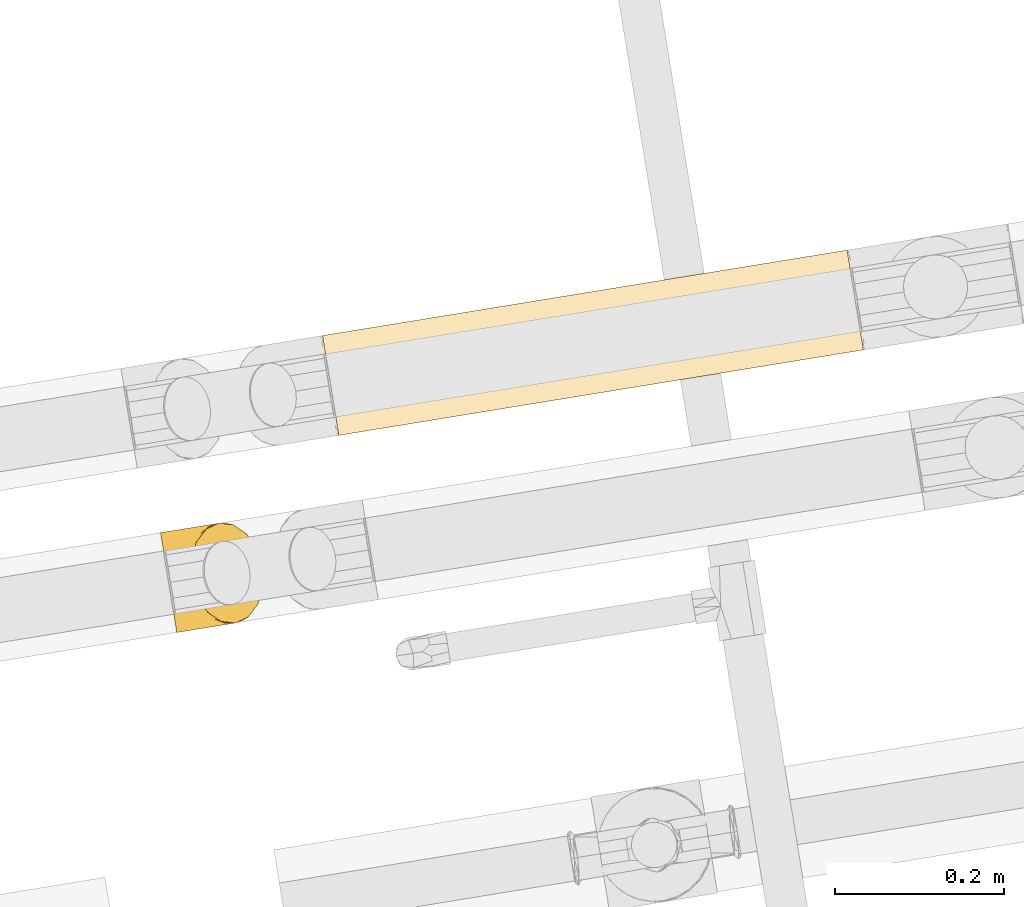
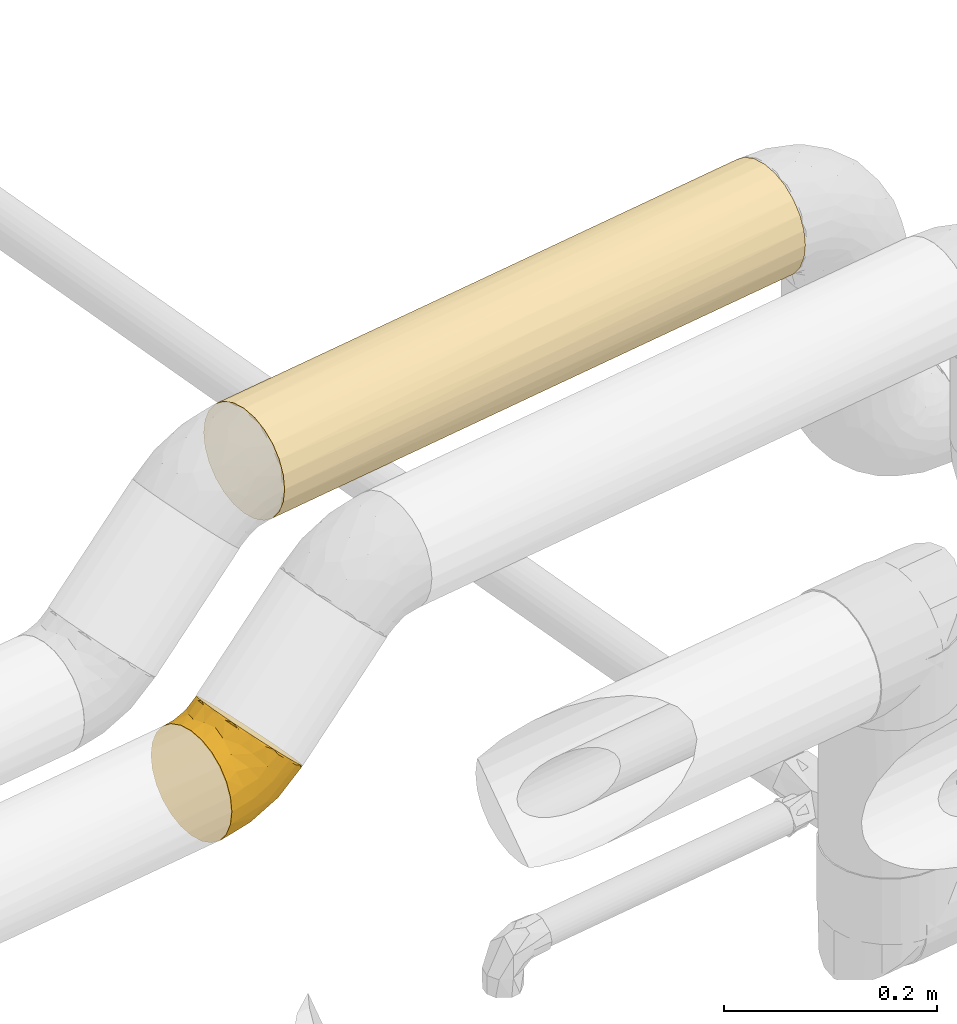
# One storey, part 10 of 56: 2 coverings.
"""IFC2X3 building model written with IfcOpenShell, lengths in millimetres."""

from ifc_helpers import new_model, entity, si_unit, converted_unit, derived_unit, direction, frame, origin, origin_with_axes, place, context, subcontext, project, spatial, faceted_brep, material, type_object, element, save


model = new_model("IFC2X3")

# Units and contexts
model_context = context("Model", 3, precision=0.01, world=origin(), true_north=direction((6.12323399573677e-17, 1.0)))
plan_context = context("Plan", 3, precision=1e-05, world=origin_with_axes())
body_context = subcontext(model_context, "Body", "Model", "MODEL_VIEW")
ifc_project = project(units=[converted_unit("PLANEANGLEUNIT", "DEGREE", entity("IfcPositiveLengthMeasure", 0.0174532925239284), si_unit("PLANEANGLEUNIT", "RADIAN"), dimensions=[0, 0, 0, 0, 0, 0, 0]), si_unit("AREAUNIT", "SQUARE_METRE"), si_unit("LENGTHUNIT", "METRE", prefix="MILLI"), si_unit("MASSUNIT", "GRAM", prefix="KILO"), si_unit("POWERUNIT", "WATT"), si_unit("PRESSUREUNIT", "PASCAL", prefix="KILO"), si_unit("FORCEUNIT", "NEWTON", prefix="KILO"), si_unit("ELECTRICVOLTAGEUNIT", "VOLT"), si_unit("ELECTRICCURRENTUNIT", "AMPERE"), si_unit("THERMODYNAMICTEMPERATUREUNIT", "DEGREE_CELSIUS"), si_unit("TIMEUNIT", "SECOND"), si_unit("VOLUMEUNIT", "CUBIC_METRE"), derived_unit("LINEARVELOCITYUNIT", [(si_unit("LENGTHUNIT", "METRE"), 1), (si_unit("TIMEUNIT", "SECOND"), -1)]), derived_unit("VOLUMETRICFLOWRATEUNIT", [(si_unit("VOLUMEUNIT", "CUBIC_METRE"), 1), (si_unit("TIMEUNIT", "SECOND"), -1)]), derived_unit("THERMALTRANSMITTANCEUNIT", [(si_unit("POWERUNIT", "WATT"), 1), (si_unit("THERMODYNAMICTEMPERATUREUNIT", "KELVIN"), -1), (si_unit("AREAUNIT", "SQUARE_METRE"), -1)]), derived_unit("SOUNDPRESSUREUNIT", [(si_unit("PRESSUREUNIT", "PASCAL"), 1)])], contexts=[model_context, plan_context])

# Site, building, storey
site_placement = place(None, frame((-3.09682673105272e-06, 1.93776733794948e-05, 0.0), z_axis=(0.0, 0.0, 1.0), x_axis=(-0.160806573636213, 0.986985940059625, 0.0)))
site = spatial("IfcSite", under=ifc_project, at=site_placement, Name="Default", CompositionType="ELEMENT")
building_placement = place(site_placement, frame((0.0, 0.0, 0.0), z_axis=(0.0, 0.0, 1.0), x_axis=(1.0, -2.77555756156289e-17, 0.0)))
building = spatial("IfcBuilding", under=site, at=building_placement, Name="Bygning (endres i Project Information)", CompositionType="ELEMENT")
storey_placement = place(building_placement, frame((0.0, 0.0, 51360.0000000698), z_axis=(0.0, 0.0, 1.0), x_axis=(1.0, -2.77555756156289e-17, 0.0)))
storey = spatial("IfcBuildingStorey", under=building, at=storey_placement, Name="H01-Nivå D+0,36", CompositionType="ELEMENT", Elevation=51360.0000000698)

# Coverings
ifc_material_1 = material(Name="3700.001 Retur")
covering_type = type_object("IfcCoveringType", Name="Pipe Insulation:GLAVA avløpsisol. slange økende 19mm (15,5-25,0)", PredefinedType="INSULATION")
covering_1_placement = place(storey_placement, frame((1011626.7223707, -394788.965391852, 3513.15039411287), z_axis=(0.0, 0.0, 1.0), x_axis=(1.0, -2.77555756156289e-17, 0.0)))
element("IfcCovering", 1, at=covering_1_placement, inside=storey, type_object=covering_type, material=ifc_material_1, Name="Pipe Insulation:GLAVA avløpsisol. slange økende 19mm (15,5-25,0)", ObjectType="Pipe Insulation:GLAVA avløpsisol. slange økende 19mm (15,5-25,0)", PredefinedType="INSULATION", context=body_context, shape_type="Brep", body=[
    faceted_brep([(38.6651321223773, 83.2865874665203, -4.82748142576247), (28.9243210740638, 78.6843109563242, -9.42975793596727), (19.1835100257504, 74.0820344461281, -14.0320344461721), (12.6749081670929, 67.1942408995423, -20.9198279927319), (6.16630630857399, 60.3064473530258, -27.8076215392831), (3.88078927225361, 52.1817408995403, -35.9323279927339), (1.59527223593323, 44.0570344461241, -44.0570344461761), (3.88078927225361, 35.9323279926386, -52.1817408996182), (6.16630630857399, 27.8076215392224, -60.3064473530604), (12.6749081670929, 20.9198279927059, -67.1942408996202), (19.1835100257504, 14.0320344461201, -74.0820344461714), (28.9243210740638, 9.42975793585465, -78.6843109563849), (38.6651321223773, 4.82748142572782, -83.2865874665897), (50.1552021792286, 3.21137683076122, -84.9026920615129), (61.6452722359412, 1.59527223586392, -86.5187966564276), (73.1353422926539, 3.21137683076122, -84.9026920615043), (84.6254123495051, 4.82748142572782, -83.2865874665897), (94.3662233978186, 9.42975793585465, -78.6843109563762), (104.107034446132, 14.0320344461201, -74.0820344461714), (110.61563630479, 20.9198279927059, -67.1942408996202), (117.124238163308, 27.8076215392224, -60.3064473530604), (119.409755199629, 35.9323279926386, -52.1817408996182), (121.695272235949, 44.0570344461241, -44.0570344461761), (119.409755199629, 52.1817408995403, -35.9323279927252), (117.124238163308, 60.3064473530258, -27.8076215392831), (110.61563630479, 67.1942408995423, -20.9198279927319), (104.107034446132, 74.0820344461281, -14.0320344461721), (94.3662233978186, 78.6843109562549, -9.42975793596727), (84.6254123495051, 83.2865874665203, -4.82748142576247), (73.1353422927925, 84.9026920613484, -3.21137683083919), (61.6452722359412, 86.5187966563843, -1.5952722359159), (50.1552021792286, 84.9026920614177, -3.21137683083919), (84.4288140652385, 114.292838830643, -128.153992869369), (77.1873558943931, 114.292838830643, -131.153503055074), (70.0046048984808, 114.292838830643, -132.099130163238), (61.6452722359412, 114.292838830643, -133.199657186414), (53.8742304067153, 114.292838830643, -132.17658012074), (46.1031885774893, 114.292838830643, -131.153503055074), (38.861730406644, 114.292838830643, -128.153992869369), (31.6202722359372, 114.292838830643, -125.154482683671), (25.4018911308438, 114.292838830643, -120.382951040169), (19.1835100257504, 114.292838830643, -115.611419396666), (14.4119783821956, 114.292838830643, -109.393038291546), (9.64044673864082, 114.292838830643, -103.174657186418), (6.64093655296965, 114.292838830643, -95.933199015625), (3.64142636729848, 114.292838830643, -88.6917408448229), (2.69579925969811, 114.292838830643, -81.5089898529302), (1.59527223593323, 114.292838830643, -73.1496571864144), (2.61834930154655, 114.292838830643, -65.3786153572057), (3.64142636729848, 114.292838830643, -57.6075735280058), (6.64093655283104, 114.292838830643, -50.3661153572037), (9.64044673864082, 114.292838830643, -43.124657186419), (14.4119783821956, 114.292838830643, -36.9062760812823), (19.1835100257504, 114.292838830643, -30.6878949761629), (25.4018911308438, 114.292838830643, -25.9163633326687), (31.6202722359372, 114.292838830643, -21.1448316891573), (38.861730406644, 114.292838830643, -18.1453215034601), (46.1031885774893, 114.292838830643, -15.1458113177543), (53.2859395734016, 114.292838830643, -14.2001842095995), (61.6452722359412, 114.292838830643, -13.099657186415), (69.4163140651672, 114.292838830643, -14.122734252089), (77.1873558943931, 114.292838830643, -15.1458113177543), (84.4288140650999, 114.292838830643, -18.1453215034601), (91.6702722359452, 114.292838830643, -21.1448316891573), (97.8886533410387, 114.292838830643, -25.9163633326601), (104.107034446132, 114.292838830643, -30.6878949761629), (108.878566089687, 114.292838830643, -36.9062760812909), (113.650097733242, 114.292838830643, -43.1246571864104), (116.649607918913, 114.292838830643, -50.3661153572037), (119.649118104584, 114.292838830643, -57.6075735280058), (120.594745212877, 114.292838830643, -64.7903245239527), (121.695272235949, 114.292838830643, -73.1496571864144), (120.672195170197, 114.292838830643, -80.920699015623), (119.649118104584, 114.292838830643, -88.6917408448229), (116.649607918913, 114.292838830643, -95.933199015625), (113.650097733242, 114.292838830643, -103.174657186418), (108.878566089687, 114.292838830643, -109.393038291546), (104.107034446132, 114.292838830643, -115.611419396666), (97.8886533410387, 114.292838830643, -120.382951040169), (91.6702722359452, 114.292838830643, -125.154482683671), (46.1031885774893, 112.292838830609, -131.153503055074), (61.6452722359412, 112.292838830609, -133.199657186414), (53.2859395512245, 112.292838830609, -132.099130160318), (31.6202722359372, 112.292838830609, -125.154482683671), (38.861730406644, 112.292838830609, -128.153992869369), (25.4018911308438, 112.292838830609, -120.382951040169), (19.1835100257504, 112.292838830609, -115.611419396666), (9.64044673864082, 112.292838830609, -103.174657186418), (14.4119783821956, 112.292838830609, -109.393038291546), (3.64142636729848, 112.292838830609, -88.6917408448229), (6.64093655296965, 112.292838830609, -95.933199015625), (2.61834930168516, 112.292838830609, -80.920699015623), (1.59527223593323, 112.292838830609, -73.1496571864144), (3.64142636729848, 112.292838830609, -57.6075735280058), (2.69579925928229, 112.292838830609, -64.7903245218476), (9.64044673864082, 112.292838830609, -43.1246571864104), (6.64093655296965, 112.292838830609, -50.3661153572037), (14.4119783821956, 112.292838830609, -36.9062760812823), (19.1835100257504, 112.292838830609, -30.6878949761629), (31.6202722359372, 112.292838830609, -21.1448316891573), (25.4018911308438, 112.292838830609, -25.9163633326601), (46.1031885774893, 112.292838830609, -15.1458113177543), (38.861730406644, 112.292838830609, -18.1453215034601), (53.8742304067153, 112.292838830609, -14.122734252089), (61.6452722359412, 112.292838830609, -13.099657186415), (77.1873558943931, 112.292838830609, -15.1458113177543), (70.0046048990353, 112.292838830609, -14.2001842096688), (91.6702722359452, 112.292838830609, -21.1448316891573), (84.4288140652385, 112.292838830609, -18.1453215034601), (97.8886533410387, 112.292838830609, -25.9163633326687), (104.107034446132, 112.292838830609, -30.6878949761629), (113.650097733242, 112.292838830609, -43.1246571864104), (108.878566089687, 112.292838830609, -36.9062760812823), (119.649118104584, 112.292838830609, -57.6075735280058), (116.649607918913, 112.292838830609, -50.3661153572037), (120.672195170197, 112.292838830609, -65.3786153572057), (121.695272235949, 112.292838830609, -73.1496571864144), (119.649118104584, 112.292838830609, -88.6917408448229), (120.594745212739, 112.292838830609, -81.5089898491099), (113.650097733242, 112.292838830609, -103.174657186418), (116.649607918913, 112.292838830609, -95.933199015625), (108.878566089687, 112.292838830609, -109.393038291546), (104.107034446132, 112.292838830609, -115.611419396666), (91.6702722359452, 112.292838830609, -125.154482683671), (97.8886533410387, 112.292838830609, -120.382951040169), (77.1873558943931, 112.292838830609, -131.153503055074), (84.4288140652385, 112.292838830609, -128.153992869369), (69.4163140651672, 112.292838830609, -132.17658012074), (50.664647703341, 85.5475609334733, -129.839799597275), (39.5950181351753, 76.4597781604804, -124.672390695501), (61.6452722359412, 72.2923554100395, -127.933493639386), (25.9108698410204, 87.1245465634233, -119.173874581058), (26.9386521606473, 57.3759997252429, -111.230641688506), (25.9108693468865, 30.7238840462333, -95.8119553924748), (31.6202722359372, 8.69828324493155, -82.2442127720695), (25.4018911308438, 12.0722656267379, -78.8702303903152), (19.1835100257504, 15.4462480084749, -75.4962480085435), (61.6452722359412, 35.0178388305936, -112.493883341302), (50.6646483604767, 24.2970327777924, -104.469000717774), (49.9807930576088, 53.5868241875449, -120.37852270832), (1.59527223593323, 65.0428388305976, -60.4890578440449), (4.46183562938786, 69.1139559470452, -82.8927031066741), (3.64142636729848, 34.4813352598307, -56.4611607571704), (1.59527223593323, 87.834439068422, -69.9296477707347), (1.59527223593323, 99.4313806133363, -71.4564140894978), (15.0655051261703, 80.7941069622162, -107.247101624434), (8.00076731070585, 85.2729382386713, -97.0932618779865), (9.04079400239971, 59.6499882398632, -90.3254583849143), (9.64044673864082, 24.2403669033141, -66.7021291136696), (6.64093655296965, 29.3608510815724, -61.58164493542), (46.1031885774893, 4.45633525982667, -86.4861607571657), (39.5950159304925, 34.3769800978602, -107.241125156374), (15.2098345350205, 47.1520218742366, -94.1181301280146), (14.4119783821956, 19.8433074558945, -71.0991885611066), (61.6452722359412, 3.0094857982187, -87.933010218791), (53.8742304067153, 3.73291052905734, -87.2095854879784), (1.59527223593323, 55.762976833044, -53.3683692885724), (2.61834930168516, 39.9762916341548, -50.9662043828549), (1.59527223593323, 45.4712480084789, -45.4712480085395), (1.59527223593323, 76.4386389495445, -65.2093528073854), (38.861730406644, 6.57730925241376, -84.365186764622), (3.54813655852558, 80.2897842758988, -51.2164323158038), (4.16459638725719, 97.4249525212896, -54.3255432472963), (11.7283730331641, 100.885054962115, -38.6943743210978), (13.156433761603, 79.9940329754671, -28.1148182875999), (22.1682347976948, 98.6848226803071, -25.9823157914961), (9.27971318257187, 87.3768363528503, -38.8022194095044), (4.16459674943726, 69.295093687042, -42.6737737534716), (35.8329738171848, 96.8780673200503, -15.8642126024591), (61.6452722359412, 99.1093945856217, -10.4773070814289), (22.6361433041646, 86.7574756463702, -20.2894712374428), (3.64142636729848, 56.4611607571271, -34.4813352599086), (6.64093655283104, 61.5816449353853, -29.3608510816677), (9.64044673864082, 66.7021291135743, -24.2403669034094), (31.6202722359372, 82.2442127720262, -8.69828324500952), (48.4139431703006, 95.9077321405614, -10.6214088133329), (61.6452722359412, 87.933010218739, -3.00948579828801), (38.861730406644, 84.365186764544, -6.57730925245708), (46.1031885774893, 86.4861607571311, -4.45633525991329), (53.8742304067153, 87.2095854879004, -3.73291052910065), (19.1835100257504, 75.4962480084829, -15.4462480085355), (25.4018911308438, 78.8702303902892, -12.0722656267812), (14.4119783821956, 71.0991885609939, -19.8433074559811), (2.61834930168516, 50.966204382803, -39.9762916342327), (100.654400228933, 100.905278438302, -26.1496811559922), (87.4575706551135, 96.878067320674, -15.8642126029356), (101.122308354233, 88.4459215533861, -21.7412236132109), (91.6702722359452, 82.2442127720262, -8.69828324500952), (97.8886533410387, 78.8702303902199, -12.0722656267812), (104.107034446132, 75.4962480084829, -15.4462480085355), (74.8766016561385, 101.27141707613, -12.8431198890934), (119.74240796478, 83.6099611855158, -52.59169472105), (121.695272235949, 87.834439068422, -69.9296477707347), (119.125948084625, 97.4249525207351, -54.3255432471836), (110.134108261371, 100.154400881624, -36.4655109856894), (121.695272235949, 99.431380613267, -71.4564140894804), (114.01083159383, 87.3768346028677, -38.8022192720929), (121.695272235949, 55.7629768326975, -53.3683692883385), (119.649118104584, 56.4611607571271, -34.4813352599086), (120.672195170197, 50.966204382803, -39.9762916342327), (121.695272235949, 45.4712480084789, -45.4712480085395), (111.562170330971, 77.9013394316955, -29.1742072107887), (119.125947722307, 69.2950936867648, -42.6737737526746), (69.4163140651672, 87.2095854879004, -3.73291052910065), (77.1873558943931, 86.4861607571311, -4.45633525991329), (113.650097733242, 66.7021291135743, -24.2403669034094), (116.649607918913, 61.581644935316, -29.3608510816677), (84.4288140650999, 84.365186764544, -6.57730925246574), (108.878566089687, 71.0991885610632, -19.8433074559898), (121.695272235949, 65.0428388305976, -60.4890578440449), (121.695272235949, 76.4386389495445, -65.2093528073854), (118.828708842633, 69.1139559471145, -82.8927031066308), (83.6955263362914, 76.4597781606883, -124.672390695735), (97.3796746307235, 87.1245465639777, -119.173874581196), (96.3518923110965, 57.3759997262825, -111.230641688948), (83.6955285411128, 34.3769801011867, -107.241125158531), (91.6702722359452, 8.69828324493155, -82.2442127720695), (84.4288140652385, 6.57730925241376, -84.365186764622), (77.1873558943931, 4.45633525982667, -86.4861607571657), (108.080710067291, 76.7058127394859, -106.35971085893), (72.6258967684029, 85.5475609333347, -129.839799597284), (73.3097514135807, 53.5868241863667, -120.378522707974), (108.225039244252, 43.6336813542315, -91.8547496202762), (97.3796751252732, 30.7238840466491, -95.8119553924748), (119.649118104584, 34.4813352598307, -56.4611607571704), (120.672195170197, 39.9762916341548, -50.9662043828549), (114.249750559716, 70.5502398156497, -94.8404902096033), (72.6258961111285, 24.2970327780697, -104.469000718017), (104.107034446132, 15.4462480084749, -75.4962480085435), (113.650097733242, 24.2403669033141, -66.7021291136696), (108.878566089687, 19.8433074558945, -71.0991885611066), (97.8886533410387, 12.0722656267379, -78.8702303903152), (115.289777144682, 47.6465184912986, -81.5078887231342), (116.649607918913, 29.3608510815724, -61.58164493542), (69.4163140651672, 3.73291052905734, -87.2095854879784)], [[[0, 1, 2, 3, 4, 5, 6, 7, 8, 9, 10, 11, 12, 13, 14, 15, 16, 17, 18, 19, 20, 21, 22, 23, 24, 25, 26, 27, 28, 29, 30, 31]], [[32, 33, 34, 35, 36, 37, 38, 39, 40, 41, 42, 43, 44, 45, 46, 47, 48, 49, 50, 51, 52, 53, 54, 55, 56, 57, 58, 59, 60, 61, 62, 63, 64, 65, 66, 67, 68, 69, 70, 71, 72, 73, 74, 75, 76, 77, 78, 79]], [[80, 37, 36, 35, 81, 82]], [[83, 39, 38, 37, 80, 84]], [[40, 39, 83, 85, 86, 41]], [[87, 43, 42, 41, 86, 88]], [[89, 45, 44, 43, 87, 90]], [[46, 45, 89, 91, 92, 47]], [[93, 49, 48, 47, 92, 94]], [[95, 51, 50, 49, 93, 96]], [[52, 51, 95, 97, 98, 53]], [[99, 55, 54, 53, 98, 100]], [[101, 57, 56, 55, 99, 102]], [[58, 57, 101, 103, 104, 59]], [[105, 61, 60, 59, 104, 106]], [[107, 63, 62, 61, 105, 108]], [[64, 63, 107, 109, 110, 65]], [[111, 67, 66, 65, 110, 112]], [[113, 69, 68, 67, 111, 114]], [[70, 69, 113, 115, 116, 71]], [[117, 73, 72, 71, 116, 118]], [[119, 75, 74, 73, 117, 120]], [[76, 75, 119, 121, 122, 77]], [[123, 79, 78, 77, 122, 124]], [[125, 33, 32, 79, 123, 126]], [[34, 33, 125, 127, 81, 35]], [[80, 128, 129]], [[81, 130, 128]], [[131, 86, 85, 83]], [[129, 132, 131]], [[133, 134, 135, 136]], [[137, 138, 139]], [[139, 130, 137]], [[140, 141, 142]], [[89, 143, 144, 92, 91]], [[143, 89, 141]], [[129, 83, 84, 80]], [[145, 146, 87]], [[145, 87, 88, 86]], [[147, 148, 149, 142]], [[150, 151, 138]], [[132, 129, 151]], [[152, 136, 153, 148]], [[134, 133, 151]], [[151, 129, 139]], [[138, 154, 155, 150]], [[132, 152, 145]], [[151, 133, 132]], [[146, 89, 90, 87]], [[156, 140, 142, 157, 158]], [[141, 140, 159, 143]], [[142, 141, 147]], [[145, 131, 132]], [[129, 131, 83]], [[133, 152, 132]], [[146, 147, 141]], [[152, 133, 136]], [[151, 150, 160, 134]], [[128, 139, 129]], [[145, 86, 131]], [[147, 145, 152]], [[89, 146, 141]], [[145, 147, 146]], [[148, 147, 152]], [[128, 80, 82, 81]], [[139, 128, 130]], [[139, 138, 151]], [[154, 138, 137]], [[143, 161, 162]], [[143, 162, 144]], [[163, 98, 97, 95]], [[144, 162, 93]], [[164, 165, 166]], [[161, 167, 166]], [[165, 99, 100, 98]], [[165, 168, 99]], [[162, 95, 96, 93]], [[169, 104, 103, 101]], [[168, 101, 102, 99]], [[163, 165, 98]], [[161, 143, 159, 140]], [[167, 164, 166]], [[168, 165, 170]], [[167, 171, 172, 173]], [[163, 162, 166]], [[167, 156, 171]], [[164, 167, 173]], [[168, 170, 174]], [[161, 140, 167]], [[169, 175, 176]], [[168, 174, 177, 178]], [[101, 168, 175]], [[178, 175, 168]], [[175, 178, 179, 176]], [[170, 180, 181, 174]], [[164, 170, 165]], [[162, 163, 95]], [[180, 170, 164]], [[165, 163, 166]], [[164, 173, 182, 180]], [[144, 93, 94, 92]], [[156, 167, 140]], [[156, 158, 183, 171]], [[101, 175, 169]], [[162, 161, 166]], [[184, 185, 186]], [[186, 187, 188, 189]], [[105, 190, 185]], [[191, 192, 193]], [[194, 184, 186]], [[184, 110, 109, 107]], [[193, 195, 113]], [[194, 186, 196]], [[193, 113, 114, 111]], [[197, 198, 199, 200]], [[191, 193, 196]], [[201, 202, 196]], [[104, 169, 190]], [[186, 201, 196]], [[169, 176, 203, 204]], [[185, 184, 107]], [[185, 107, 108, 105]], [[202, 205, 206, 198]], [[185, 204, 207, 187]], [[187, 186, 185]], [[184, 194, 110]], [[201, 189, 208, 205]], [[201, 186, 189]], [[191, 202, 209]], [[209, 202, 197]], [[202, 198, 197]], [[209, 210, 192, 191]], [[194, 193, 111]], [[194, 111, 112, 110]], [[204, 185, 190]], [[202, 201, 205]], [[193, 194, 196]], [[195, 193, 192]], [[195, 116, 115, 113]], [[190, 105, 106, 104]], [[204, 190, 169]], [[202, 191, 196]], [[117, 192, 211]], [[212, 213, 214]], [[195, 192, 117, 118, 116]], [[215, 216, 217, 218]], [[219, 213, 122]], [[213, 219, 214]], [[220, 81, 127, 125]], [[212, 215, 221]], [[212, 125, 126, 123]], [[222, 223, 214]], [[213, 123, 124, 122]], [[123, 213, 212]], [[220, 221, 130]], [[219, 122, 121, 119]], [[211, 192, 210, 209]], [[215, 223, 216]], [[224, 209, 197, 200, 225]], [[117, 211, 226]], [[219, 222, 214]], [[215, 227, 221]], [[222, 228, 223]], [[222, 229, 230, 228]], [[212, 220, 125]], [[223, 228, 231, 216]], [[154, 137, 227]], [[218, 227, 215]], [[222, 232, 229]], [[223, 215, 214]], [[221, 137, 130]], [[232, 224, 233, 229]], [[214, 215, 212]], [[224, 211, 209]], [[232, 226, 211]], [[226, 119, 120, 117]], [[226, 222, 219]], [[224, 232, 211]], [[222, 226, 232]], [[119, 226, 219]], [[227, 218, 234, 154]], [[221, 227, 137]], [[221, 220, 212]], [[81, 220, 130]], [[155, 154, 14]], [[157, 142, 7]], [[157, 6, 158]], [[12, 11, 134]], [[12, 134, 160, 150]], [[12, 150, 13]], [[10, 135, 11]], [[14, 13, 155]], [[135, 10, 136]], [[13, 150, 155]], [[6, 157, 7]], [[8, 142, 149, 148]], [[153, 9, 148]], [[153, 10, 9]], [[8, 148, 9]], [[10, 153, 136]], [[135, 134, 11]], [[8, 7, 142]], [[183, 158, 6]], [[179, 178, 31]], [[179, 30, 176]], [[4, 3, 173]], [[4, 173, 172, 171]], [[4, 171, 5]], [[2, 182, 3]], [[6, 5, 183]], [[182, 2, 180]], [[5, 171, 183]], [[30, 179, 31]], [[0, 178, 177, 174]], [[181, 1, 174]], [[181, 2, 1]], [[0, 174, 1]], [[2, 181, 180]], [[182, 173, 3]], [[0, 31, 178]], [[203, 176, 30]], [[199, 198, 23]], [[199, 22, 200]], [[28, 27, 187]], [[28, 187, 207, 204]], [[28, 204, 29]], [[26, 188, 27]], [[30, 29, 203]], [[188, 26, 189]], [[29, 204, 203]], [[22, 199, 23]], [[24, 198, 206, 205]], [[208, 25, 205]], [[208, 26, 25]], [[24, 205, 25]], [[26, 208, 189]], [[188, 187, 27]], [[24, 23, 198]], [[225, 200, 22]], [[234, 218, 15]], [[234, 14, 154]], [[20, 19, 229]], [[20, 229, 233, 224]], [[20, 224, 21]], [[18, 230, 19]], [[22, 21, 225]], [[230, 18, 228]], [[21, 224, 225]], [[14, 234, 15]], [[16, 218, 217, 216]], [[231, 17, 216]], [[231, 18, 17]], [[16, 216, 17]], [[18, 231, 228]], [[230, 229, 19]], [[16, 15, 218]]]),
])
ifc_material_2 = material(Name="3700.001 Tur")
covering_2_placement = place(storey_placement, frame((1011826.7223714, -395532.815734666, 3538.3547284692), z_axis=(0.0, 0.0, 1.0), x_axis=(1.0, -2.77555756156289e-17, 0.0)))
element("IfcCovering", 2, at=covering_2_placement, inside=storey, type_object=covering_type, material=ifc_material_2, Name="Pipe Insulation:GLAVA avløpsisol. slange økende 19mm (15,5-25,0)", ObjectType="Pipe Insulation:GLAVA avløpsisol. slange økende 19mm (15,5-25,0)", PredefinedType="INSULATION", context=body_context, shape_type="Brep", body=[
    faceted_brep([(46.103188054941, 630.857555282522, 119.649116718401), (61.6452715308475, 630.857555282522, 121.695270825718), (77.1873550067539, 630.857555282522, 119.649116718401), (91.6702711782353, 630.857555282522, 113.650096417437), (104.107033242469, 630.857555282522, 104.107033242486), (113.650096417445, 630.857555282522, 91.6702711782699), (119.649116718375, 630.857555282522, 77.1873550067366), (121.695270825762, 630.857555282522, 61.6452715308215), (119.649116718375, 630.857555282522, 46.1031880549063), (113.650096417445, 630.857555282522, 31.620271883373), (104.107033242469, 630.857555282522, 19.1835098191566), (91.6702711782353, 630.857555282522, 9.64044664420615), (77.1873550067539, 630.857555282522, 3.64142634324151), (61.6452715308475, 630.857555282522, 1.59527223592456), (46.103188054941, 630.857555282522, 3.64142634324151), (31.6202718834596, 630.857555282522, 9.64044664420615), (19.1835098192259, 630.857555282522, 19.1835098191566), (9.64044664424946, 630.857555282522, 31.620271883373), (3.64142634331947, 630.857555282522, 46.1031880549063), (1.59527223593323, 630.857555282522, 61.6452715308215), (3.64142634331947, 630.857555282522, 77.1873550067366), (9.64044664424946, 630.857555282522, 91.6702711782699), (19.1835098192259, 630.857555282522, 104.107033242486), (31.6202718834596, 630.857555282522, 113.650096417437), (31.6202718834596, 0.0, 113.650096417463), (19.1835098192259, 0.0, 104.107033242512), (9.64044664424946, 0.0, 91.6702711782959), (3.64142634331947, 0.0, 77.1873550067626), (1.59527223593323, 0.0, 61.6452715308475), (3.64142634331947, 0.0, 46.1031880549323), (9.64044664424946, 0.0, 31.620271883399), (19.1835098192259, 0.0, 19.1835098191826), (31.6202718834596, 0.0, 9.64044664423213), (46.103188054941, 0.0, 3.64142634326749), (61.6452715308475, 0.0, 1.59527223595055), (77.1873550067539, 0.0, 3.64142634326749), (91.6702711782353, 0.0, 9.64044664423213), (104.107033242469, 0.0, 19.1835098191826), (113.650096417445, 0.0, 31.620271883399), (119.649116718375, 0.0, 46.1031880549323), (121.695270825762, 0.0, 61.6452715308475), (119.649116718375, 0.0, 77.1873550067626), (113.650096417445, 0.0, 91.6702711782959), (104.107033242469, 0.0, 104.107033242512), (91.6702711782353, 0.0, 113.650096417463), (77.1873550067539, 0.0, 119.649116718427), (61.6452715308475, 0.0, 121.695270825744), (46.103188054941, 0.0, 119.649116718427), (109.286139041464, 315.428778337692, 25.0891481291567), (117.124236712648, 315.42877513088, 38.6651314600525), (73.2529365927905, 333.513985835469, 2.72783330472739), (61.6452715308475, 270.579088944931, 1.59527223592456), (61.6452715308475, 360.279174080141, 1.59527223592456), (120.5627096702, 333.513976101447, 50.0376060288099), (121.695270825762, 270.578943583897, 61.6452715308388), (98.2013949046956, 315.428778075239, 14.004403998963), (84.6254113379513, 315.428777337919, 6.16630623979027), (38.6651316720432, 315.428777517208, 6.16630626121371), (50.0376064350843, 297.343569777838, 2.72783331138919), (2.72783330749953, 333.513986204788, 50.0376064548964), (6.16630625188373, 315.428777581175, 38.6651316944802), (25.0891481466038, 315.428777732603, 14.0044040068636), (14.0044040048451, 315.428777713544, 25.0891481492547), (1.59527223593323, 270.57893406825, 61.6452715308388), (1.59527223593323, 360.278621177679, 61.6452715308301), (6.16630625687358, 315.428777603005, 84.6254113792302), (2.72783330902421, 297.34356914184, 73.2529366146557), (50.0376064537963, 333.513986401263, 120.562709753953), (38.6651316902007, 315.428777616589, 117.124236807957), (14.0044040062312, 315.428777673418, 98.2013949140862), (25.0891481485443, 315.428777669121, 109.286139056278), (61.6452715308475, 270.578933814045, 121.69527082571), (61.6452715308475, 360.278621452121, 121.695270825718), (84.6254113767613, 315.428777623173, 117.124236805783), (73.2529366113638, 297.34356890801, 120.562709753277), (120.562709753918, 333.513986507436, 73.2529366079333), (117.124236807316, 315.428777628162, 84.6254113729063), (98.2013949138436, 315.428777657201, 109.286139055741), (109.286139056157, 315.428777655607, 98.2013949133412)], [[[0, 1, 2, 3, 4, 5, 6, 7, 8, 9, 10, 11, 12, 13, 14, 15, 16, 17, 18, 19, 20, 21, 22, 23]], [[24, 25, 26, 27, 28, 29, 30, 31, 32, 33, 34, 35, 36, 37, 38, 39, 40, 41, 42, 43, 44, 45, 46, 47]], [[48, 49, 38]], [[50, 34, 51, 52, 13]], [[39, 38, 49]], [[39, 49, 53]], [[49, 8, 53]], [[49, 48, 9]], [[37, 48, 38]], [[53, 7, 54, 40]], [[48, 10, 9]], [[40, 39, 53]], [[55, 48, 37]], [[8, 49, 9]], [[56, 36, 35]], [[7, 53, 8]], [[36, 55, 37]], [[13, 12, 50]], [[55, 11, 10]], [[56, 55, 36]], [[50, 12, 56]], [[56, 11, 55]], [[48, 55, 10]], [[11, 56, 12]], [[35, 50, 56]], [[34, 50, 35]], [[57, 58, 33]], [[29, 59, 60]], [[58, 13, 52, 51, 34]], [[57, 33, 32]], [[58, 34, 33]], [[14, 57, 15]], [[13, 58, 14]], [[61, 16, 15]], [[61, 57, 32]], [[62, 61, 31]], [[59, 28, 63, 64, 19]], [[60, 30, 29]], [[59, 18, 60]], [[19, 18, 59]], [[62, 17, 16]], [[60, 62, 30]], [[28, 59, 29]], [[60, 17, 62]], [[61, 62, 16]], [[31, 61, 32]], [[17, 60, 18]], [[30, 62, 31]], [[14, 58, 57]], [[57, 61, 15]], [[65, 66, 27]], [[47, 67, 68]], [[66, 19, 64, 63, 28]], [[65, 27, 26]], [[66, 28, 27]], [[20, 65, 21]], [[19, 66, 20]], [[69, 22, 21]], [[69, 65, 26]], [[70, 69, 25]], [[67, 46, 71, 72, 1]], [[68, 24, 47]], [[67, 0, 68]], [[1, 0, 67]], [[70, 23, 22]], [[68, 70, 24]], [[46, 67, 47]], [[68, 23, 70]], [[69, 70, 22]], [[25, 69, 26]], [[23, 68, 0]], [[24, 70, 25]], [[20, 66, 65]], [[65, 69, 21]], [[73, 74, 45]], [[41, 75, 76]], [[74, 1, 72, 71, 46]], [[73, 45, 44]], [[74, 46, 45]], [[2, 73, 3]], [[1, 74, 2]], [[77, 4, 3]], [[77, 73, 44]], [[78, 77, 43]], [[7, 75, 40, 54]], [[76, 42, 41]], [[75, 6, 76]], [[7, 6, 75]], [[78, 5, 4]], [[76, 78, 42]], [[40, 75, 41]], [[76, 5, 78]], [[77, 78, 4]], [[43, 77, 44]], [[5, 76, 6]], [[42, 78, 43]], [[2, 74, 73]], [[73, 77, 3]]]),
])

save(model, "model.ifc")
